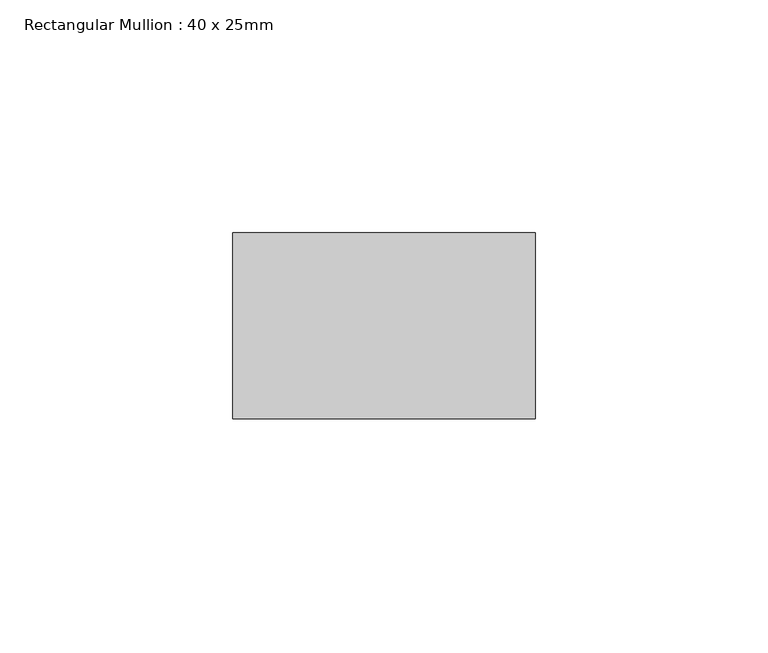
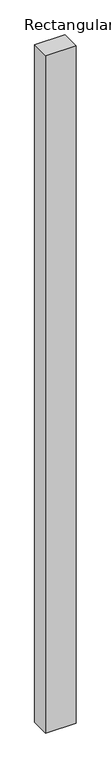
"""IFC4 building model written with IfcOpenShell, lengths in millimetres: member geometry, Rectangular Mullion : 40 x 25mm."""

from ifc_helpers import new_model, si_unit, frame, origin, place, context, project, spatial, polyline, outline, extrude, source, transform, mapped, element, save


def rectangular_mullion_40_x_25mm_eb28b82e(model_context):
    return source(origin(), model_context, "Body", "SweptSolid", [
        extrude(outline(polyline([(0.0, -20.0), (0.0, -60.0), (-65.0, -60.0), (-65.0, -20.0), (0.0, -20.0)])), frame((0.0, 0.0, -1530.0), z_axis=(0.0, 0.0, 1.0), x_axis=(1.0, 0.0, 0.0)), (0.0, 0.0, 1.0), 1530.0),
    ])


if __name__ == "__main__":
    model = new_model("IFC4")
    model_context = context("Model", 3, world=origin())
    ifc_project = project(units=[si_unit("LENGTHUNIT", "METRE", prefix="MILLI")], contexts=[model_context])
    site = spatial("IfcSite", under=ifc_project)
    building = spatial("IfcBuilding", under=site)
    placement = place(None, origin())
    rectangular_mullion_40_x_25mm_shape = rectangular_mullion_40_x_25mm_eb28b82e(model_context)
    element("IfcMember", 1, ObjectType="Rectangular Mullion : 40 x 25mm", at=placement, inside=building, context=model_context, shape_type="MappedRepresentation", body=[
        mapped(rectangular_mullion_40_x_25mm_shape, transform((0.0, 0.0, 0.0), x_axis=(1.0, 0.0, 0.0), y_axis=(0.0, 1.0, 0.0), z_axis=(0.0, 0.0, 1.0))),
    ])
    save(model, "model.ifc")
